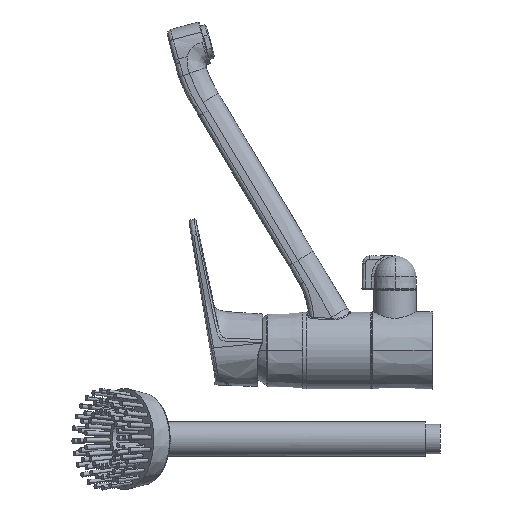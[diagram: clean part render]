
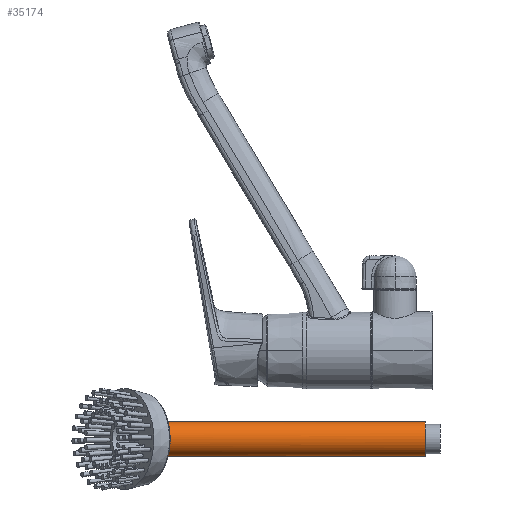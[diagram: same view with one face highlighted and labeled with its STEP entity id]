
A CAD part, left-side view. The second image highlights one B-rep face of the part: STEP entity #35174.
In plain terms, the highlighted cylindrical face has radius 12 mm (diameter 24 mm), a partial arc.
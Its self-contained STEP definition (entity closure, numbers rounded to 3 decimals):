
#1221 = CARTESIAN_POINT ( 'NONE',  ( 568.565, 439.593, 139.497 ) ) ;
#3349 = LINE ( 'NONE', #41160, #39262 ) ;
#5791 = VERTEX_POINT ( 'NONE', #44834 ) ;
#8051 = EDGE_CURVE ( 'NONE', #41389, #23858, #3349, .T. ) ;
#10509 = ORIENTED_EDGE ( 'NONE', *, *, #14669, .T. ) ;
#10516 = VECTOR ( 'NONE', #10799, 1000. ) ;
#10799 = DIRECTION ( 'NONE',  ( 0., -1., 0. ) ) ;
#11059 = CIRCLE ( 'NONE', #34968, 12. ) ;
#12022 = CARTESIAN_POINT ( 'NONE',  ( 592.565, 457.076, 115.497 ) ) ;
#14052 = CARTESIAN_POINT ( 'NONE',  ( 592.565, 466.333, 115.497 ) ) ;
#14448 = FACE_OUTER_BOUND ( 'NONE', #32370, .T. ) ;
#14669 = EDGE_CURVE ( 'NONE', #5791, #37308, #30632, .T. ) ;
#17519 = DIRECTION ( 'NONE',  ( 0., 1., 0. ) ) ;
#18602 = ORIENTED_EDGE ( 'NONE', *, *, #37512, .T. ) ;
#19953 = CARTESIAN_POINT ( 'NONE',  ( 592.565, 466.333, 127.497 ) ) ;
#21264 = AXIS2_PLACEMENT_3D ( 'NONE', #19953, #44565, #34544 ) ;
#22372 = CARTESIAN_POINT ( 'NONE',  ( 592.565, 260.333, 115.497 ) ) ;
#23058 = DIRECTION ( 'NONE',  ( 0., -1., 0. ) ) ;
#23253 = ORIENTED_EDGE ( 'NONE', *, *, #8051, .F. ) ;
#23858 = VERTEX_POINT ( 'NONE', #29361 ) ;
#28354 = ORIENTED_EDGE ( 'NONE', *, *, #32949, .T. ) ;
#29361 = CARTESIAN_POINT ( 'NONE',  ( 592.565, 260.333, 139.497 ) ) ;
#30632 = LINE ( 'NONE', #14052, #10516 ) ;
#31093 = CARTESIAN_POINT ( 'NONE',  ( 592.565, 457.076, 139.497 ) ) ;
#32370 = EDGE_LOOP ( 'NONE', ( #23253, #28354, #10509, #18602 ) ) ;
#32382 = CYLINDRICAL_SURFACE ( 'NONE', #21264, 12. ) ;
#32949 = EDGE_CURVE ( 'NONE', #41389, #5791, #39961, .T. ) ;
#33454 = CARTESIAN_POINT ( 'NONE',  ( 568.565, 439.593, 115.497 ) ) ;
#34544 = DIRECTION ( 'NONE',  ( 0., 0., -1. ) ) ;
#34968 = AXIS2_PLACEMENT_3D ( 'NONE', #39042, #17519, #42622 ) ;
#35174 = ADVANCED_FACE ( 'NONE', ( #14448 ), #32382, .T. ) ;
#37308 = VERTEX_POINT ( 'NONE', #22372 ) ;
#37512 = EDGE_CURVE ( 'NONE', #37308, #23858, #11059, .T. ) ;
#39042 = CARTESIAN_POINT ( 'NONE',  ( 592.565, 260.333, 127.497 ) ) ;
#39262 = VECTOR ( 'NONE', #23058, 1000. ) ;
#39961 =( BOUNDED_CURVE ( )  B_SPLINE_CURVE ( 3, ( #44138, #1221, #33454, #12022 ),
 .UNSPECIFIED., .F., .T. ) 
 B_SPLINE_CURVE_WITH_KNOTS ( ( 4, 4 ),
 ( 4.712, 7.854 ),
 .UNSPECIFIED. ) 
 CURVE ( )  GEOMETRIC_REPRESENTATION_ITEM ( )  RATIONAL_B_SPLINE_CURVE ( ( 1., 0.333, 0.333, 1. ) ) 
 REPRESENTATION_ITEM ( '' )  );
#41160 = CARTESIAN_POINT ( 'NONE',  ( 592.565, 466.333, 139.497 ) ) ;
#41389 = VERTEX_POINT ( 'NONE', #31093 ) ;
#42622 = DIRECTION ( 'NONE',  ( 0., 0., 1. ) ) ;
#44138 = CARTESIAN_POINT ( 'NONE',  ( 592.565, 457.076, 139.497 ) ) ;
#44565 = DIRECTION ( 'NONE',  ( 0., -1., 0. ) ) ;
#44834 = CARTESIAN_POINT ( 'NONE',  ( 592.565, 457.076, 115.497 ) ) ;
